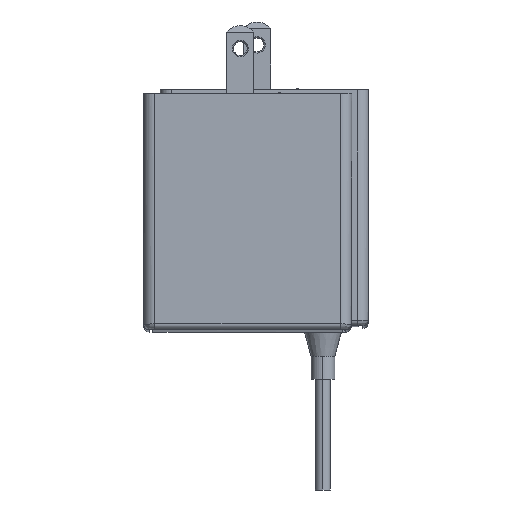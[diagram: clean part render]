
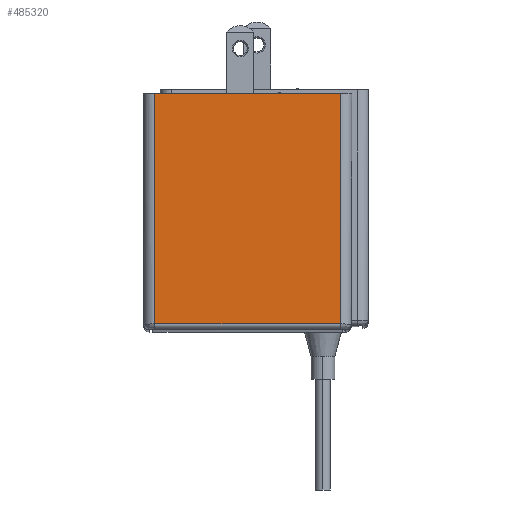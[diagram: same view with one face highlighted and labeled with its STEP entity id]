
A CAD part, left-side view. The second image highlights one B-rep face of the part: STEP entity #485320.
In plain terms, the highlighted planar face has unit normal (-1, 0, -0.002).
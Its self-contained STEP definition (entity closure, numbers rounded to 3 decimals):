
#481730=CARTESIAN_POINT('',(-40.171,11.392,
0.));
#481740=VERTEX_POINT('',#481730);
#481770=CARTESIAN_POINT('',(-40.171,11.392,
0.));
#481780=DIRECTION('',(0.,1.,0.));
#481790=VECTOR('',#481780,1.);
#481800=LINE('',#481770,#481790);
#481810=CARTESIAN_POINT('',(-40.171,54.608,
0.));
#481820=VERTEX_POINT('',#481810);
#481830=EDGE_CURVE('',#481740,#481820,#481800,.T.);
#484960=CARTESIAN_POINT('',(-40.077,11.486,
-53.331));
#484970=VERTEX_POINT('',#484960);
#485000=CARTESIAN_POINT('',(-40.077,11.486,
-53.331));
#485010=DIRECTION('',(-0.002,-0.002,
1.));
#485020=VECTOR('',#485010,1.);
#485030=LINE('',#485000,#485020);
#485040=EDGE_CURVE('',#484970,#481740,#485030,.T.);
#485090=CARTESIAN_POINT('',(-40.171,33.,
0.));
#485100=DIRECTION('',(-1.,0.,
-0.002));
#485110=DIRECTION('',(-0.002,0.,1.));
#485120=AXIS2_PLACEMENT_3D('',#485090,#485100,#485110);
#485130=PLANE('',#485120);
#485140=ORIENTED_EDGE('',*,*,#481830,.T.);
#485150=ORIENTED_EDGE('',*,*,#485040,.T.);
#485160=CARTESIAN_POINT('',(-40.077,11.486,
-53.331));
#485170=DIRECTION('',(0.,1.,0.));
#485180=VECTOR('',#485170,1.);
#485190=LINE('',#485160,#485180);
#485200=CARTESIAN_POINT('',(-40.077,54.514,
-53.331));
#485210=VERTEX_POINT('',#485200);
#485220=EDGE_CURVE('',#484970,#485210,#485190,.T.);
#485230=ORIENTED_EDGE('',*,*,#485220,.F.);
#485240=CARTESIAN_POINT('',(-40.171,54.608,
0.));
#485250=DIRECTION('',(0.002,-0.002,
-1.));
#485260=VECTOR('',#485250,1.);
#485270=LINE('',#485240,#485260);
#485280=EDGE_CURVE('',#481820,#485210,#485270,.T.);
#485290=ORIENTED_EDGE('',*,*,#485280,.T.);
#485300=EDGE_LOOP('',(#485290,#485230,#485150,#485140));
#485310=FACE_OUTER_BOUND('',#485300,.T.);
#485320=ADVANCED_FACE('',(#485310),#485130,.T.);
